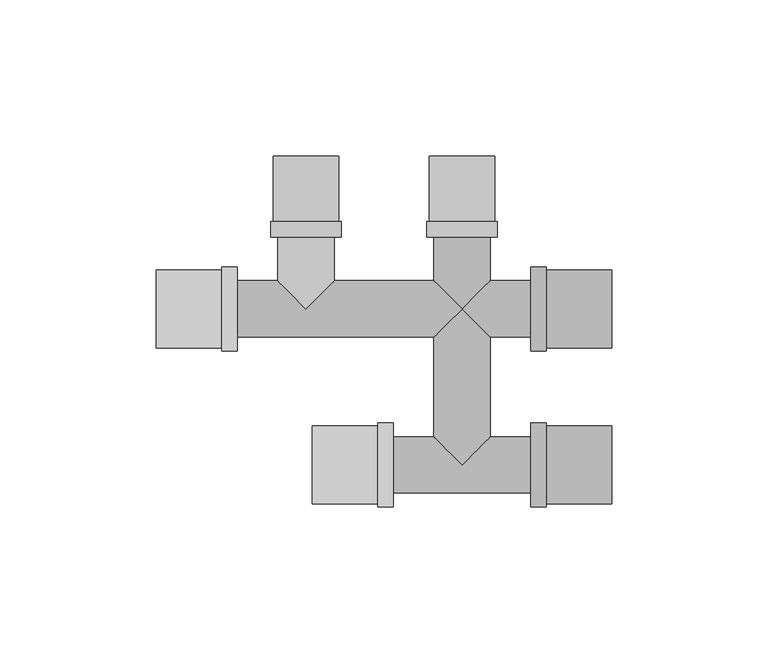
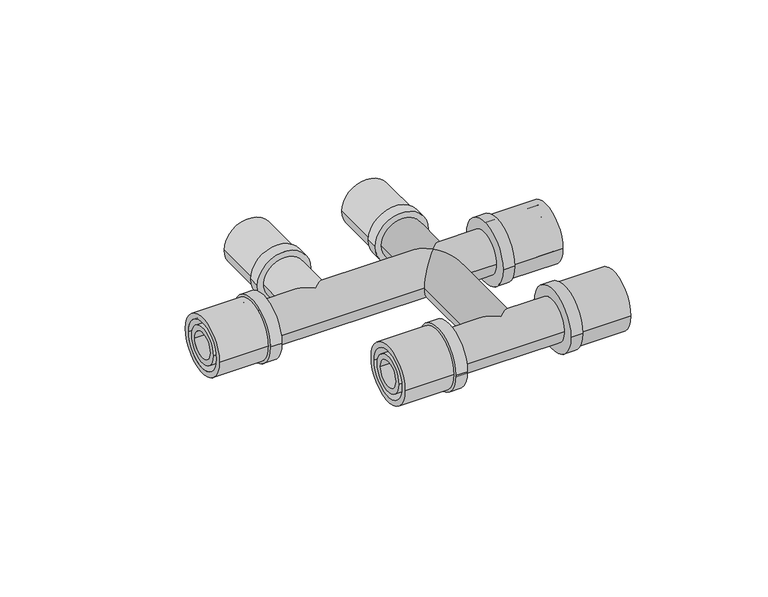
"""IFC4 building model written with IfcOpenShell, lengths in millimetres: pipe fitting geometry, PIF_Tigris_Crossfitting_Wavin_(multiport) : Tigris M5 Crossfitting 20x16x20."""

import ifcopenshell
import ifcopenshell.guid

model = None  # the IFC model being written
_history = None  # IfcOwnerHistory: only IFC2X3 demands one
_inside = {}  # id of a spatial element -> (the spatial element, [elements in it])
_under = {}  # id of a project, library or spatial element -> (it, [spatial elements below it])
_declared = {}  # id of a project -> (the project, [libraries it declares])
_typed = {}  # id of a type object -> (the type object, [elements of that type])
_made_of = {}  # id of a material, layer set ... -> (it, [elements and type objects made of it])


def new_model(schema):
    """Start an empty IFC model of exactly this schema.

    Asked for "IFC4X3", IfcOpenShell would pick the latest addendum, in which some entities
    have other attributes; the version numbers below select the first issue.
    IFC2X3 requires an IfcOwnerHistory on every rooted entity: one is made here for all.
    """
    global model, _history
    if schema == "IFC4X3":
        model = ifcopenshell.file(schema_version=(4, 3, 0, 0))
    else:
        model = ifcopenshell.file(schema=schema)
    _inside.clear()
    _under.clear()
    _declared.clear()
    _typed.clear()
    _made_of.clear()
    _history = None
    if model.schema == "IFC2X3":
        org = make("IfcOrganization", Name="unknown")
        user = make(
            "IfcPersonAndOrganization",
            ThePerson=make("IfcPerson", FamilyName="unknown"),
            TheOrganization=org,
        )
        app = make(
            "IfcApplication",
            ApplicationDeveloper=org,
            Version="unknown",
            ApplicationFullName="unknown",
            ApplicationIdentifier="unknown",
        )
        _history = make(
            "IfcOwnerHistory",
            OwningUser=user,
            OwningApplication=app,
            ChangeAction="ADDED",
            CreationDate=0,
        )
    return model


def make(cls, **values):
    """One entity of the class cls with the attributes given. An attribute that is None is left unset."""
    return model.create_entity(
        cls, **{name: value for name, value in values.items() if value is not None}
    )


def rooted(cls, **values):
    """An entity with a GlobalId (a new one), such as an element, a storey or a relation."""
    return make(cls, GlobalId=ifcopenshell.guid.new(), OwnerHistory=_history, **values)


def si_unit(unit_type, name, prefix=None):
    """IfcSIUnit, for example si_unit("LENGTHUNIT", "METRE", prefix="MILLI")."""
    return make("IfcSIUnit", UnitType=unit_type, Prefix=prefix, Name=name)


def assignment(units):
    """IfcUnitAssignment: the units of a project."""
    return None if units is None else make("IfcUnitAssignment", Units=units)


def point(xyz):
    """IfcCartesianPoint."""
    return None if xyz is None else make("IfcCartesianPoint", Coordinates=xyz)


def direction(xyz):
    """IfcDirection."""
    return None if xyz is None else make("IfcDirection", DirectionRatios=xyz)


def frame(location, z_axis=None, x_axis=None):
    """IfcAxis2Placement3D, a coordinate frame: its origin and axes. An axis left out is left unset."""
    return make(
        "IfcAxis2Placement3D",
        Location=point(location),
        Axis=direction(z_axis),
        RefDirection=direction(x_axis),
    )


def frame_2d(location, x_axis=None):
    """IfcAxis2Placement2D, a coordinate frame in the plane: its origin and x axis."""
    return make(
        "IfcAxis2Placement2D", Location=point(location), RefDirection=direction(x_axis)
    )


def origin():
    """The frame at (0, 0, 0) with its axes left unset."""
    return frame((0.0, 0.0, 0.0))


def origin_2d():
    """The frame at (0, 0) in the plane with its x axis left unset."""
    return frame_2d((0.0, 0.0))


def place(relative_to, where):
    """IfcLocalPlacement: puts the frame where relative to a parent placement (None: the world)."""
    return make(
        "IfcLocalPlacement", PlacementRelTo=relative_to, RelativePlacement=where
    )


def context(
    kind, dimensions, precision=None, world=None, true_north=None, identifier=None
):
    """IfcGeometricRepresentationContext, for example the 3D "Model" context."""
    return make(
        "IfcGeometricRepresentationContext",
        ContextIdentifier=identifier,
        ContextType=kind,
        CoordinateSpaceDimension=dimensions,
        Precision=precision,
        WorldCoordinateSystem=world,
        TrueNorth=true_north,
    )


def project(units=None, contexts=None):
    """IfcProject with its units and contexts."""
    return rooted(
        "IfcProject",
        Name="project",
        RepresentationContexts=contexts,
        UnitsInContext=assignment(units),
    )


def spatial(cls, under=None, at=None, **own):
    """A site, building, storey or space (cls), placed at a placement, below another one or the project."""
    s = rooted(cls, ObjectPlacement=at, **own)
    if under is not None:
        _under.setdefault(under.id(), (under, []))[1].append(s)
    return s


def circle_curve(where, radius):
    """IfcCircle in the frame where."""
    return make("IfcCircle", Position=where, Radius=radius)


def ellipse_curve(where, semi_axis1, semi_axis2):
    """IfcEllipse in the frame where."""
    return make(
        "IfcEllipse", Position=where, SemiAxis1=semi_axis1, SemiAxis2=semi_axis2
    )


def trimmed(basis, trim1, trim2, sense, master):
    """IfcTrimmedCurve: the piece of a basis curve between two trims."""
    return make(
        "IfcTrimmedCurve",
        BasisCurve=basis,
        Trim1=trim1,
        Trim2=trim2,
        SenseAgreement=sense,
        MasterRepresentation=master,
    )


def segment(curve, same_sense, transition):
    """IfcCompositeCurveSegment."""
    return make(
        "IfcCompositeCurveSegment",
        Transition=transition,
        SameSense=same_sense,
        ParentCurve=curve,
    )


def composite_curve(segments, self_intersect=None):
    """IfcCompositeCurve: segments joined end to end."""
    return make("IfcCompositeCurve", Segments=segments, SelfIntersect=self_intersect)


def outline(outer, holes=None, kind="AREA"):
    """IfcArbitraryClosedProfileDef: a profile drawn as a closed curve; with holes, ...WithVoids."""
    if holes is None:
        return make("IfcArbitraryClosedProfileDef", ProfileType=kind, OuterCurve=outer)
    return make(
        "IfcArbitraryProfileDefWithVoids",
        ProfileType=kind,
        OuterCurve=outer,
        InnerCurves=holes,
    )


def extrude(swept, where, along, depth):
    """IfcExtrudedAreaSolid: the profile swept, set in the frame where, extruded along a direction by depth."""
    return make(
        "IfcExtrudedAreaSolid",
        SweptArea=swept,
        Position=where,
        ExtrudedDirection=direction(along),
        Depth=depth,
    )


def shape(context_of_items, identifier, shape_type, items):
    """IfcShapeRepresentation: the items that make up one representation, for example the "Body"."""
    return make(
        "IfcShapeRepresentation",
        ContextOfItems=context_of_items,
        RepresentationIdentifier=identifier,
        RepresentationType=shape_type,
        Items=items,
    )


def source(mapping_origin, context_of_items, identifier, shape_type, items):
    """IfcRepresentationMap: a shape defined once, which mapped items show again and again."""
    return make(
        "IfcRepresentationMap",
        MappingOrigin=mapping_origin,
        MappedRepresentation=shape(context_of_items, identifier, shape_type, items),
    )


def transform(
    local_origin,
    x_axis=None,
    y_axis=None,
    z_axis=None,
    scale=None,
    scale2=None,
    scale3=None,
    uniform=True,
):
    """IfcCartesianTransformationOperator3D, or its non-uniform kind. x_axis, y_axis, z_axis: its Axis1, 2, 3."""
    if uniform:
        return make(
            "IfcCartesianTransformationOperator3D",
            Axis1=direction(x_axis),
            Axis2=direction(y_axis),
            LocalOrigin=point(local_origin),
            Scale=scale,
            Axis3=direction(z_axis),
        )
    return make(
        "IfcCartesianTransformationOperator3DnonUniform",
        Axis1=direction(x_axis),
        Axis2=direction(y_axis),
        LocalOrigin=point(local_origin),
        Scale=scale,
        Axis3=direction(z_axis),
        Scale2=scale2,
        Scale3=scale3,
    )


def mapped(mapping_source, mapping_target):
    """IfcMappedItem: shows the shape of a source again, moved by a transform."""
    return make(
        "IfcMappedItem", MappingSource=mapping_source, MappingTarget=mapping_target
    )


def made_of(thing, what):
    """Note that an element or type object is made of a material, layer set ...; save() writes the relation."""
    if what is not None:
        _made_of.setdefault(what.id(), (what, []))[1].append(thing)
    return thing


def element(
    cls,
    number,
    at=None,
    inside=None,
    cuts=None,
    type_object=None,
    material=None,
    context=None,
    identifier="Body",
    shape_type=None,
    held_by="IfcProductDefinitionShape",
    body=None,
    shapes=None,
    **own,
):
    """One element of the class cls, such as IfcWall. Its Tag is "e" and its number.

    at: its placement. inside: the storey or other place that contains it. cuts: it is an
    opening in that element (IfcRelVoidsElement). A single representation is given by context,
    identifier, shape_type and body (its items); several are given by shapes. held_by: the class
    of the entity that holds the representations. save() writes the other relations.
    """
    e = rooted(cls, Tag="e%d" % number, ObjectPlacement=at, **own)
    if body is not None:
        shapes = [shape(context, identifier, shape_type, body)]
    if shapes is not None:
        e.Representation = make(held_by, Representations=shapes)
    if inside is not None:
        _inside.setdefault(inside.id(), (inside, []))[1].append(e)
    if cuts is not None:
        rooted(
            "IfcRelVoidsElement", RelatingBuildingElement=cuts, RelatedOpeningElement=e
        )
    if type_object is not None:
        _typed.setdefault(type_object.id(), (type_object, []))[1].append(e)
    return made_of(e, material)


def aggregate(whole, parts):
    """IfcRelAggregates: a whole, such as a stair, and the parts it consists of."""
    return rooted("IfcRelAggregates", RelatingObject=whole, RelatedObjects=parts)


def save(model, path):
    """Write the relations noted so far, then the file.

    IfcRelAggregates (storeys below a building ...), IfcRelContainedInSpatialStructure (elements
    in a storey), IfcRelDefinesByType, IfcRelAssociatesMaterial and IfcRelDeclares: one each for
    every whole, place, type object, material and project.
    """
    for whole, parts in _under.values():
        aggregate(whole, parts)
    for where, things in _inside.values():
        rooted(
            "IfcRelContainedInSpatialStructure",
            RelatedElements=things,
            RelatingStructure=where,
        )
    for kind, things in _typed.values():
        rooted("IfcRelDefinesByType", RelatedObjects=things, RelatingType=kind)
    for what, things in _made_of.values():
        rooted("IfcRelAssociatesMaterial", RelatedObjects=things, RelatingMaterial=what)
    for by, libraries in _declared.values():
        rooted("IfcRelDeclares", RelatingContext=by, RelatedDefinitions=libraries)
    model.write(path)


def plane_surface(at):
    """IfcPlane: the flat surface through the origin of the frame at, square to its z axis."""
    return make("IfcPlane", Position=at)


def cylinder_surface(at, radius):
    """IfcCylindricalSurface: all points at the distance radius from the z axis of the frame at."""
    return make("IfcCylindricalSurface", Position=at, Radius=radius)


def advanced_brep(points, edges, surfaces, faces):
    """IfcAdvancedBrep: a solid bounded by faces that lie on surfaces and meet in shared edges.

    An edge is (start, end): straight between two places in points (the first is 0);
    or (start, end, curve); or (start, end, curve, False) where it runs against its curve.
    A face is (place in surfaces, loops), or (place, loops, False) where it looks against
    its surface's normal. A loop lists edges by number (the first is 1), with a minus sign
    where the edge is run from its end to its start. The first loop is the outer one.
    """
    corners = [point(p) for p in points]
    vertices = [make("IfcVertexPoint", VertexGeometry=c) for c in corners]
    made = []
    for start, end, *more in edges:
        made.append(
            make(
                "IfcEdgeCurve",
                EdgeStart=vertices[start],
                EdgeEnd=vertices[end],
                EdgeGeometry=more[0] if more else make("IfcPolyline", Points=[corners[start], corners[end]]),
                SameSense=more[1] if len(more) > 1 else True,
            )
        )
    hull = []
    for where, loops, *sense in faces:
        bounds = []
        for j, loop in enumerate(loops):
            ring = [make("IfcOrientedEdge", EdgeElement=made[abs(k) - 1], Orientation=k > 0) for k in loop]
            bounds.append(
                make(
                    "IfcFaceOuterBound" if j == 0 else "IfcFaceBound",
                    Bound=make("IfcEdgeLoop", EdgeList=ring),
                    Orientation=True,
                )
            )
        hull.append(make("IfcAdvancedFace", Bounds=bounds, FaceSurface=surfaces[where], SameSense=sense[0] if sense else True))
    return make("IfcAdvancedBrep", Outer=make("IfcClosedShell", CfsFaces=hull))


def pipe_fitting_bdfedd8b(model_context):
    return source(origin(), model_context, "Body", "SolidModel", [
        extrude(outline(composite_curve([segment(trimmed(circle_curve(frame_2d((-50.0, 0.0)), 13.45), [point((-63.45, 0.0))], [point((-36.55, 0.0))], False, "CARTESIAN"), True, "CONTINUOUS"), segment(trimmed(circle_curve(frame_2d((-50.0, 0.0)), 13.45), [point((-36.55, 0.0))], [point((-63.45, 0.0))], False, "CARTESIAN"), True, "CONTINUOUS")], self_intersect=False)), frame((-27.0, 0.0, 0.0), z_axis=(1.0, 0.0, 0.0), x_axis=(0.0, 1.0, 0.0)), (0.0, 0.0, 1.0), 5.0),
        extrude(outline(composite_curve([segment(trimmed(circle_curve(frame_2d((-50.0, 0.0)), 12.5), [point((-62.5, 0.0))], [point((-37.5, 0.0))], False, "CARTESIAN"), True, "CONTINUOUS"), segment(trimmed(circle_curve(frame_2d((-50.0, 0.0)), 12.5), [point((-37.5, 0.0))], [point((-62.5, 0.0))], False, "CARTESIAN"), True, "CONTINUOUS")], self_intersect=False), holes=[composite_curve([segment(trimmed(circle_curve(frame_2d((-50.0, 0.0)), 10.2), [point((-60.2, 0.0))], [point((-39.8, 0.0))], True, "CARTESIAN"), True, "CONTINUOUS"), segment(trimmed(circle_curve(frame_2d((-50.0, 0.0)), 10.2), [point((-39.8, 0.0))], [point((-60.2, 0.0))], True, "CARTESIAN"), True, "CONTINUOUS")], self_intersect=False)]), frame((-48.0, 0.0, 0.0), z_axis=(1.0, 0.0, 0.0), x_axis=(0.0, 1.0, 0.0)), (0.0, 0.0, 1.0), 21.0),
        extrude(outline(composite_curve([segment(trimmed(circle_curve(frame_2d((-50.0, 0.0)), 7.9), [point((-57.9, 0.0))], [point((-42.1, 0.0))], False, "CARTESIAN"), True, "CONTINUOUS"), segment(trimmed(circle_curve(frame_2d((-50.0, 0.0)), 7.9), [point((-42.1, 0.0))], [point((-57.9, 0.0))], False, "CARTESIAN"), True, "CONTINUOUS")], self_intersect=False), holes=[composite_curve([segment(trimmed(circle_curve(frame_2d((-50.0, 0.0)), 5.6), [point((-55.6, 0.0))], [point((-44.4, 0.0))], True, "CARTESIAN"), True, "CONTINUOUS"), segment(trimmed(circle_curve(frame_2d((-50.0, 0.0)), 5.6), [point((-44.4, 0.0))], [point((-55.6, 0.0))], True, "CARTESIAN"), True, "CONTINUOUS")], self_intersect=False)]), frame((-48.0, 0.0, 0.0), z_axis=(1.0, 0.0, 0.0), x_axis=(0.0, 1.0, 0.0)), (0.0, 0.0, 1.0), 26.0),
        extrude(outline(composite_curve([segment(trimmed(circle_curve(frame_2d((-50.0, 0.0)), 13.45), [point((-36.55, 0.0))], [point((-63.45, 0.0))], False, "CARTESIAN"), True, "CONTINUOUS"), segment(trimmed(circle_curve(frame_2d((-50.0, 0.0)), 13.45), [point((-63.45, 0.0))], [point((-36.55, 0.0))], False, "CARTESIAN"), True, "CONTINUOUS")], self_intersect=False)), frame((22.0, 0.0, 0.0), z_axis=(1.0, 0.0, 0.0), x_axis=(0.0, 1.0, 0.0)), (0.0, 0.0, 1.0), 5.0),
        extrude(outline(composite_curve([segment(trimmed(circle_curve(frame_2d((-50.0, 0.0)), 12.5), [point((-37.5, 0.0))], [point((-62.5, 0.0))], False, "CARTESIAN"), True, "CONTINUOUS"), segment(trimmed(circle_curve(frame_2d((-50.0, 0.0)), 12.5), [point((-62.5, 0.0))], [point((-37.5, 0.0))], False, "CARTESIAN"), True, "CONTINUOUS")], self_intersect=False), holes=[composite_curve([segment(trimmed(circle_curve(frame_2d((-50.0, 0.0)), 10.2), [point((-39.8, 0.0))], [point((-60.2, 0.0))], True, "CARTESIAN"), True, "CONTINUOUS"), segment(trimmed(circle_curve(frame_2d((-50.0, 0.0)), 10.2), [point((-60.2, 0.0))], [point((-39.8, 0.0))], True, "CARTESIAN"), True, "CONTINUOUS")], self_intersect=False)]), frame((27.0, 0.0, 0.0), z_axis=(1.0, 0.0, 0.0), x_axis=(0.0, 1.0, 0.0)), (0.0, 0.0, 1.0), 21.0),
        extrude(outline(composite_curve([segment(trimmed(circle_curve(frame_2d((-50.0, 0.0)), 7.9), [point((-42.1, 0.0))], [point((-57.9, 0.0))], False, "CARTESIAN"), True, "CONTINUOUS"), segment(trimmed(circle_curve(frame_2d((-50.0, 0.0)), 7.9), [point((-57.9, 0.0))], [point((-42.1, 0.0))], False, "CARTESIAN"), True, "CONTINUOUS")], self_intersect=False), holes=[composite_curve([segment(trimmed(circle_curve(frame_2d((-50.0, 0.0)), 5.6), [point((-44.4, 0.0))], [point((-55.6, 0.0))], True, "CARTESIAN"), True, "CONTINUOUS"), segment(trimmed(circle_curve(frame_2d((-50.0, 0.0)), 5.6), [point((-55.6, 0.0))], [point((-44.4, 0.0))], True, "CARTESIAN"), True, "CONTINUOUS")], self_intersect=False)]), frame((22.0, 0.0, 0.0), z_axis=(1.0, 0.0, 0.0), x_axis=(0.0, 1.0, 0.0)), (0.0, 0.0, 1.0), 26.0),
        extrude(outline(composite_curve([segment(trimmed(circle_curve(origin_2d(), 13.45), [point((13.45, 0.0))], [point((-13.45, 0.0))], False, "CARTESIAN"), True, "CONTINUOUS"), segment(trimmed(circle_curve(origin_2d(), 13.45), [point((-13.45, 0.0))], [point((13.45, 0.0))], False, "CARTESIAN"), True, "CONTINUOUS")], self_intersect=False)), frame((22.0, 0.0, 0.0), z_axis=(1.0, 0.0, 0.0), x_axis=(0.0, 1.0, 0.0)), (0.0, 0.0, 1.0), 5.0),
        extrude(outline(composite_curve([segment(trimmed(circle_curve(origin_2d(), 12.5), [point((12.5, 0.0))], [point((-12.5, 0.0))], False, "CARTESIAN"), True, "CONTINUOUS"), segment(trimmed(circle_curve(origin_2d(), 12.5), [point((-12.5, 0.0))], [point((12.5, 0.0))], False, "CARTESIAN"), True, "CONTINUOUS")], self_intersect=False), holes=[composite_curve([segment(trimmed(circle_curve(origin_2d(), 10.2), [point((10.2, 0.0))], [point((-10.2, 0.0))], True, "CARTESIAN"), True, "CONTINUOUS"), segment(trimmed(circle_curve(origin_2d(), 10.2), [point((-10.2, 0.0))], [point((10.2, 0.0))], True, "CARTESIAN"), True, "CONTINUOUS")], self_intersect=False)]), frame((27.0, 0.0, 0.0), z_axis=(1.0, 0.0, 0.0), x_axis=(0.0, 1.0, 0.0)), (0.0, 0.0, 1.0), 21.0),
        extrude(outline(composite_curve([segment(trimmed(circle_curve(origin_2d(), 7.9), [point((7.9, 0.0))], [point((-7.9, 0.0))], False, "CARTESIAN"), True, "CONTINUOUS"), segment(trimmed(circle_curve(origin_2d(), 7.9), [point((-7.9, 0.0))], [point((7.9, 0.0))], False, "CARTESIAN"), True, "CONTINUOUS")], self_intersect=False), holes=[composite_curve([segment(trimmed(circle_curve(origin_2d(), 5.6), [point((5.6, 0.0))], [point((-5.6, 0.0))], True, "CARTESIAN"), True, "CONTINUOUS"), segment(trimmed(circle_curve(origin_2d(), 5.6), [point((-5.6, 0.0))], [point((5.6, 0.0))], True, "CARTESIAN"), True, "CONTINUOUS")], self_intersect=False)]), frame((22.0, 0.0, 0.0), z_axis=(1.0, 0.0, 0.0), x_axis=(0.0, 1.0, 0.0)), (0.0, 0.0, 1.0), 26.0),
        extrude(outline(composite_curve([segment(trimmed(circle_curve(origin_2d(), 11.35), [point((0.0, -11.35))], [point((0.0, 11.35))], False, "CARTESIAN"), True, "CONTINUOUS"), segment(trimmed(circle_curve(origin_2d(), 11.35), [point((0.0, 11.35))], [point((0.0, -11.35))], False, "CARTESIAN"), True, "CONTINUOUS")], self_intersect=False)), frame((0.0, 23.0, 0.0), z_axis=(0.0, 1.0, 0.0), x_axis=(0.0, 0.0, 1.0)), (0.0, 0.0, 1.0), 5.0),
        extrude(outline(composite_curve([segment(trimmed(circle_curve(origin_2d(), 10.5), [point((0.0, -10.5))], [point((0.0, 10.5))], False, "CARTESIAN"), True, "CONTINUOUS"), segment(trimmed(circle_curve(origin_2d(), 10.5), [point((0.0, 10.5))], [point((0.0, -10.5))], False, "CARTESIAN"), True, "CONTINUOUS")], self_intersect=False), holes=[composite_curve([segment(trimmed(circle_curve(origin_2d(), 8.2), [point((0.0, -8.2))], [point((0.0, 8.2))], True, "CARTESIAN"), True, "CONTINUOUS"), segment(trimmed(circle_curve(origin_2d(), 8.2), [point((0.0, 8.2))], [point((0.0, -8.2))], True, "CARTESIAN"), True, "CONTINUOUS")], self_intersect=False)]), frame((0.0, 28.0, 0.0), z_axis=(0.0, 1.0, 0.0), x_axis=(0.0, 0.0, 1.0)), (0.0, 0.0, 1.0), 21.0),
        extrude(outline(composite_curve([segment(trimmed(circle_curve(origin_2d(), 6.1), [point((0.0, -6.1))], [point((0.0, 6.1))], False, "CARTESIAN"), True, "CONTINUOUS"), segment(trimmed(circle_curve(origin_2d(), 6.1), [point((0.0, 6.1))], [point((0.0, -6.1))], False, "CARTESIAN"), True, "CONTINUOUS")], self_intersect=False), holes=[composite_curve([segment(trimmed(circle_curve(origin_2d(), 4.0), [point((0.0, -4.0))], [point((0.0, 4.0))], True, "CARTESIAN"), True, "CONTINUOUS"), segment(trimmed(circle_curve(origin_2d(), 4.0), [point((0.0, 4.0))], [point((0.0, -4.0))], True, "CARTESIAN"), True, "CONTINUOUS")], self_intersect=False)]), frame((0.0, 24.0, 0.0), z_axis=(0.0, 1.0, 0.0), x_axis=(0.0, 0.0, 1.0)), (0.0, 0.0, 1.0), 25.0),
        extrude(outline(composite_curve([segment(trimmed(circle_curve(frame_2d((0.0, -50.0)), 11.35), [point((0.0, -61.35))], [point((0.0, -38.65))], False, "CARTESIAN"), True, "CONTINUOUS"), segment(trimmed(circle_curve(frame_2d((0.0, -50.0)), 11.35), [point((0.0, -38.65))], [point((0.0, -61.35))], False, "CARTESIAN"), True, "CONTINUOUS")], self_intersect=False)), frame((0.0, 23.0, 0.0), z_axis=(0.0, 1.0, 0.0), x_axis=(0.0, 0.0, 1.0)), (0.0, 0.0, 1.0), 5.0),
        extrude(outline(composite_curve([segment(trimmed(circle_curve(frame_2d((0.0, -50.0)), 10.5), [point((0.0, -60.5))], [point((0.0, -39.5))], False, "CARTESIAN"), True, "CONTINUOUS"), segment(trimmed(circle_curve(frame_2d((0.0, -50.0)), 10.5), [point((0.0, -39.5))], [point((0.0, -60.5))], False, "CARTESIAN"), True, "CONTINUOUS")], self_intersect=False), holes=[composite_curve([segment(trimmed(circle_curve(frame_2d((0.0, -50.0)), 8.2), [point((0.0, -58.2))], [point((0.0, -41.8))], True, "CARTESIAN"), True, "CONTINUOUS"), segment(trimmed(circle_curve(frame_2d((0.0, -50.0)), 8.2), [point((0.0, -41.8))], [point((0.0, -58.2))], True, "CARTESIAN"), True, "CONTINUOUS")], self_intersect=False)]), frame((0.0, 28.0, 0.0), z_axis=(0.0, 1.0, 0.0), x_axis=(0.0, 0.0, 1.0)), (0.0, 0.0, 1.0), 21.0),
        extrude(outline(composite_curve([segment(trimmed(circle_curve(frame_2d((0.0, -50.0)), 6.1), [point((0.0, -56.1))], [point((0.0, -43.9))], False, "CARTESIAN"), True, "CONTINUOUS"), segment(trimmed(circle_curve(frame_2d((0.0, -50.0)), 6.1), [point((0.0, -43.9))], [point((0.0, -56.1))], False, "CARTESIAN"), True, "CONTINUOUS")], self_intersect=False), holes=[composite_curve([segment(trimmed(circle_curve(frame_2d((0.0, -50.0)), 4.0), [point((0.0, -54.0))], [point((0.0, -46.0))], True, "CARTESIAN"), True, "CONTINUOUS"), segment(trimmed(circle_curve(frame_2d((0.0, -50.0)), 4.0), [point((0.0, -46.0))], [point((0.0, -54.0))], True, "CARTESIAN"), True, "CONTINUOUS")], self_intersect=False)]), frame((0.0, 24.0, 0.0), z_axis=(0.0, 1.0, 0.0), x_axis=(0.0, 0.0, 1.0)), (0.0, 0.0, 1.0), 25.0),
        extrude(outline(composite_curve([segment(trimmed(circle_curve(origin_2d(), 13.45), [point((-13.45, 0.0))], [point((13.45, 0.0))], False, "CARTESIAN"), True, "CONTINUOUS"), segment(trimmed(circle_curve(origin_2d(), 13.45), [point((13.45, 0.0))], [point((-13.45, 0.0))], False, "CARTESIAN"), True, "CONTINUOUS")], self_intersect=False)), frame((-77.0, 0.0, 0.0), z_axis=(1.0, 0.0, 0.0), x_axis=(0.0, 1.0, 0.0)), (0.0, 0.0, 1.0), 5.0),
        extrude(outline(composite_curve([segment(trimmed(circle_curve(origin_2d(), 12.5), [point((-12.5, 0.0))], [point((12.5, 0.0))], False, "CARTESIAN"), True, "CONTINUOUS"), segment(trimmed(circle_curve(origin_2d(), 12.5), [point((12.5, 0.0))], [point((-12.5, 0.0))], False, "CARTESIAN"), True, "CONTINUOUS")], self_intersect=False), holes=[composite_curve([segment(trimmed(circle_curve(origin_2d(), 10.2), [point((-10.2, 0.0))], [point((10.2, 0.0))], True, "CARTESIAN"), True, "CONTINUOUS"), segment(trimmed(circle_curve(origin_2d(), 10.2), [point((10.2, 0.0))], [point((-10.2, 0.0))], True, "CARTESIAN"), True, "CONTINUOUS")], self_intersect=False)]), frame((-98.0, 0.0, 0.0), z_axis=(1.0, 0.0, 0.0), x_axis=(0.0, 1.0, 0.0)), (0.0, 0.0, 1.0), 21.0),
        extrude(outline(composite_curve([segment(trimmed(circle_curve(origin_2d(), 7.9), [point((-7.9, 0.0))], [point((7.9, 0.0))], False, "CARTESIAN"), True, "CONTINUOUS"), segment(trimmed(circle_curve(origin_2d(), 7.9), [point((7.9, 0.0))], [point((-7.9, 0.0))], False, "CARTESIAN"), True, "CONTINUOUS")], self_intersect=False), holes=[composite_curve([segment(trimmed(circle_curve(origin_2d(), 5.6), [point((-5.6, 0.0))], [point((5.6, 0.0))], True, "CARTESIAN"), True, "CONTINUOUS"), segment(trimmed(circle_curve(origin_2d(), 5.6), [point((5.6, 0.0))], [point((-5.6, 0.0))], True, "CARTESIAN"), True, "CONTINUOUS")], self_intersect=False)]), frame((-98.0, 0.0, 0.0), z_axis=(1.0, 0.0, 0.0), x_axis=(0.0, 1.0, 0.0)), (0.0, 0.0, 1.0), 26.0),
        advanced_brep(
        [(-41.0, 24.0, 0.0), (-59.0, 24.0, 0.0), (-59.0, 9.0, 0.0), (-50.0, 0.0, 9.0), (-41.0, 9.0, 0.0), (-50.0, 0.0, -9.0), (-72.0, -9.0, 0.0), (-72.0, 9.0, 0.0), (22.0, -9.0, 0.0), (22.0, 9.0, 0.0), (-9.0, -9.0, 0.0), (0.0, 0.0, 9.0), (-9.0, 9.0, 0.0), (9.0, 9.0, 0.0), (9.0, -9.0, 0.0), (0.0, 0.0, -9.0), (-9.0, 24.0, 0.0), (9.0, 24.0, 0.0), (-9.0, -41.0, 0.0), (0.0, -50.0, 9.0), (9.0, -41.0, 0.0), (0.0, -50.0, -9.0), (-22.0, -59.0, 0.0), (-22.0, -41.0, 0.0), (22.0, -59.0, 0.0), (22.0, -41.0, 0.0)],
        [
            (0, 1, circle_curve(frame((-50.0, 24.0, 0.0), z_axis=(0.0, 1.0, 0.0), x_axis=(-1.0, 0.0, 0.0)), 9.0)),
            (1, 0, circle_curve(frame((-50.0, 24.0, 0.0), z_axis=(0.0, 1.0, 0.0), x_axis=(-1.0, 0.0, 0.0)), 9.0)),
            (1, 2),
            (2, 3, ellipse_curve(frame((-50.0, 0.0, 0.0), z_axis=(0.7071067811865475, 0.7071067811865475, 0.0), x_axis=(0.7071067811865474, -0.7071067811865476, 0.0)), 12.7279221, 9.0)),
            (3, 4, ellipse_curve(frame((-50.0, 0.0, 0.0), z_axis=(-0.7071067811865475, 0.7071067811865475, 0.0), x_axis=(-0.7071067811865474, -0.7071067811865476, 0.0)), 12.7279221, 9.0)),
            (4, 0),
            (4, 5, ellipse_curve(frame((-50.0, 0.0, 0.0), z_axis=(-0.7071067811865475, 0.7071067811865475, 0.0), x_axis=(-0.7071067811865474, -0.7071067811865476, 0.0)), 12.7279221, 9.0)),
            (5, 2, ellipse_curve(frame((-50.0, 0.0, 0.0), z_axis=(0.7071067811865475, 0.7071067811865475, 0.0), x_axis=(0.7071067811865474, -0.7071067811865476, 0.0)), 12.7279221, 9.0)),
            (6, 7, circle_curve(frame((-72.0, 0.0, 0.0), z_axis=(-1.0, 0.0, 0.0), x_axis=(0.0, 1.0, 0.0)), 9.0)),
            (7, 6, circle_curve(frame((-72.0, 0.0, 0.0), z_axis=(-1.0, 0.0, 0.0), x_axis=(0.0, 1.0, 0.0)), 9.0)),
            (8, 9, circle_curve(frame((22.0, 0.0, 0.0), z_axis=(1.0, 0.0, 0.0), x_axis=(0.0, 1.0, 0.0)), 9.0)),
            (9, 8, circle_curve(frame((22.0, 0.0, 0.0), z_axis=(1.0, 0.0, 0.0), x_axis=(0.0, 1.0, 0.0)), 9.0)),
            (6, 10),
            (10, 11, ellipse_curve(frame((0.0, 0.0, 0.0), z_axis=(-0.7071067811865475, 0.7071067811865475, 0.0), x_axis=(-0.7071067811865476, -0.7071067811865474, 0.0)), 12.7279221, 9.0)),
            (11, 12, ellipse_curve(frame((0.0, 0.0, 0.0), z_axis=(-0.7071067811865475, -0.7071067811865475, 0.0), x_axis=(-0.7071067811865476, 0.7071067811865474, 0.0)), 12.7279221, 9.0)),
            (12, 4),
            (2, 7),
            (9, 13),
            (13, 11, ellipse_curve(frame((0.0, 0.0, 0.0), z_axis=(0.7071067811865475, -0.7071067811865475, 0.0), x_axis=(-0.7071067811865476, -0.7071067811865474, 0.0)), 12.7279221, 9.0)),
            (11, 14, ellipse_curve(frame((0.0, 0.0, 0.0), z_axis=(0.7071067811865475, 0.7071067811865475, 0.0), x_axis=(-0.7071067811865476, 0.7071067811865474, 0.0)), 12.7279221, 9.0)),
            (14, 8),
            (12, 15, ellipse_curve(frame((0.0, 0.0, 0.0), z_axis=(-0.7071067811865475, -0.7071067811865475, 0.0), x_axis=(-0.7071067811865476, 0.7071067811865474, 0.0)), 12.7279221, 9.0)),
            (15, 10, ellipse_curve(frame((0.0, 0.0, 0.0), z_axis=(-0.7071067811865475, 0.7071067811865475, 0.0), x_axis=(-0.7071067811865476, -0.7071067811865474, 0.0)), 12.7279221, 9.0)),
            (14, 15, ellipse_curve(frame((0.0, 0.0, 0.0), z_axis=(0.7071067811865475, 0.7071067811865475, 0.0), x_axis=(-0.7071067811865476, 0.7071067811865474, 0.0)), 12.7279221, 9.0)),
            (15, 13, ellipse_curve(frame((0.0, 0.0, 0.0), z_axis=(0.7071067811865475, -0.7071067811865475, 0.0), x_axis=(-0.7071067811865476, -0.7071067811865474, 0.0)), 12.7279221, 9.0)),
            (16, 17, circle_curve(frame((0.0, 24.0, 0.0), z_axis=(0.0, 1.0, 0.0), x_axis=(1.0, 0.0, 0.0)), 9.0)),
            (17, 16, circle_curve(frame((0.0, 24.0, 0.0), z_axis=(0.0, 1.0, 0.0), x_axis=(1.0, 0.0, 0.0)), 9.0)),
            (10, 18),
            (18, 19, ellipse_curve(frame((0.0, -50.0, 0.0), z_axis=(0.7071067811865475, 0.7071067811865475, 0.0), x_axis=(-0.7071067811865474, 0.7071067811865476, 0.0)), 12.7279221, 9.0)),
            (19, 20, ellipse_curve(frame((0.0, -50.0, 0.0), z_axis=(-0.7071067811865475, 0.7071067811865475, 0.0), x_axis=(0.7071067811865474, 0.7071067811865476, 0.0)), 12.7279221, 9.0)),
            (20, 14),
            (16, 12),
            (13, 17),
            (20, 21, ellipse_curve(frame((0.0, -50.0, 0.0), z_axis=(-0.7071067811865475, 0.7071067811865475, 0.0), x_axis=(0.7071067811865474, 0.7071067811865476, 0.0)), 12.7279221, 9.0)),
            (21, 18, ellipse_curve(frame((0.0, -50.0, 0.0), z_axis=(0.7071067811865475, 0.7071067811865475, 0.0), x_axis=(-0.7071067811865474, 0.7071067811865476, 0.0)), 12.7279221, 9.0)),
            (22, 23, circle_curve(frame((-22.0, -50.0, 0.0), z_axis=(-1.0, 0.0, 0.0), x_axis=(0.0, 1.0, 0.0)), 9.0)),
            (23, 22, circle_curve(frame((-22.0, -50.0, 0.0), z_axis=(-1.0, 0.0, 0.0), x_axis=(0.0, 1.0, 0.0)), 9.0)),
            (24, 25, circle_curve(frame((22.0, -50.0, 0.0), z_axis=(1.0, 0.0, 0.0), x_axis=(0.0, 1.0, 0.0)), 9.0)),
            (25, 24, circle_curve(frame((22.0, -50.0, 0.0), z_axis=(1.0, 0.0, 0.0), x_axis=(0.0, 1.0, 0.0)), 9.0)),
            (22, 24),
            (25, 20),
            (18, 23),
        ],
        [
            plane_surface(frame((-50.0, 24.0, 0.0), z_axis=(0.0, 1.0, 0.0), x_axis=(0.0, 0.0, 1.0))),
            cylinder_surface(frame((-50.0, 0.0, 0.0), z_axis=(0.0, -1.0, 0.0), x_axis=(-1.0, 0.0, 0.0)), 9.0),
            plane_surface(frame((-72.0, 0.0, 0.0), z_axis=(-1.0, 0.0, 0.0), x_axis=(0.0, 0.0, 1.0))),
            plane_surface(frame((22.0, 0.0, 0.0), z_axis=(1.0, 0.0, 0.0), x_axis=(0.0, 0.0, 1.0))),
            cylinder_surface(frame((-72.0, 0.0, 0.0), z_axis=(-1.0, 0.0, 0.0), x_axis=(0.0, 1.0, 0.0)), 9.0),
            plane_surface(frame((0.0, 24.0, 0.0), z_axis=(0.0, 1.0, 0.0), x_axis=(0.0, 0.0, 1.0))),
            cylinder_surface(frame((0.0, 24.0, 0.0), z_axis=(0.0, 1.0, 0.0), x_axis=(1.0, 0.0, 0.0)), 9.0),
            plane_surface(frame((-22.0, -50.0, 0.0), z_axis=(-1.0, 0.0, 0.0), x_axis=(0.0, 0.0, 1.0))),
            plane_surface(frame((22.0, -50.0, 0.0), z_axis=(1.0, 0.0, 0.0), x_axis=(0.0, 0.0, 1.0))),
            cylinder_surface(frame((-22.0, -50.0, 0.0), z_axis=(-1.0, 0.0, 0.0), x_axis=(0.0, 1.0, 0.0)), 9.0),
        ],
        [
            (0, [[1, 2]]),
            (1, [[-2, 3, 4, 5, 6]]),
            (1, [[-1, -6, 7, 8, -3]]),
            (2, [[9, 10]]),
            (3, [[11, 12]]),
            (4, [[-9, 13, 14, 15, 16, -5, -4, 17]]),
            (4, [[-12, 18, 19, 20, 21]]),
            (4, [[-10, -17, -8, -7, -16, 22, 23, -13]]),
            (4, [[-11, -21, 24, 25, -18]]),
            (5, [[26, 27]]),
            (6, [[-20, -14, 28, 29, 30, 31]]),
            (6, [[-26, 32, -15, -19, 33]]),
            (6, [[-24, -31, 34, 35, -28, -23]]),
            (6, [[-27, -33, -25, -22, -32]]),
            (7, [[36, 37]]),
            (8, [[38, 39]]),
            (9, [[-36, 40, -39, 41, -30, -29, 42]]),
            (9, [[-37, -42, -35, -34, -41, -38, -40]]),
        ],
    ),
    ])


if __name__ == "__main__":
    model = new_model("IFC4")
    model_context = context("Model", 3, world=origin())
    ifc_project = project(units=[si_unit("LENGTHUNIT", "METRE", prefix="MILLI")], contexts=[model_context])
    site = spatial("IfcSite", under=ifc_project)
    building = spatial("IfcBuilding", under=site)
    placement = place(None, origin())
    pipe_fitting_shape = pipe_fitting_bdfedd8b(model_context)
    element("IfcPipeFitting", 1, ObjectType="PIF_Tigris_Crossfitting_Wavin_(multiport) : Tigris M5 Crossfitting 20x16x20", at=placement, inside=building, context=model_context, shape_type="MappedRepresentation", body=[
        mapped(pipe_fitting_shape, transform((0.0, 0.0, 0.0), x_axis=(1.0, 0.0, 0.0), y_axis=(0.0, 1.0, 0.0), z_axis=(0.0, 0.0, 1.0))),
    ])
    save(model, "model.ifc")
